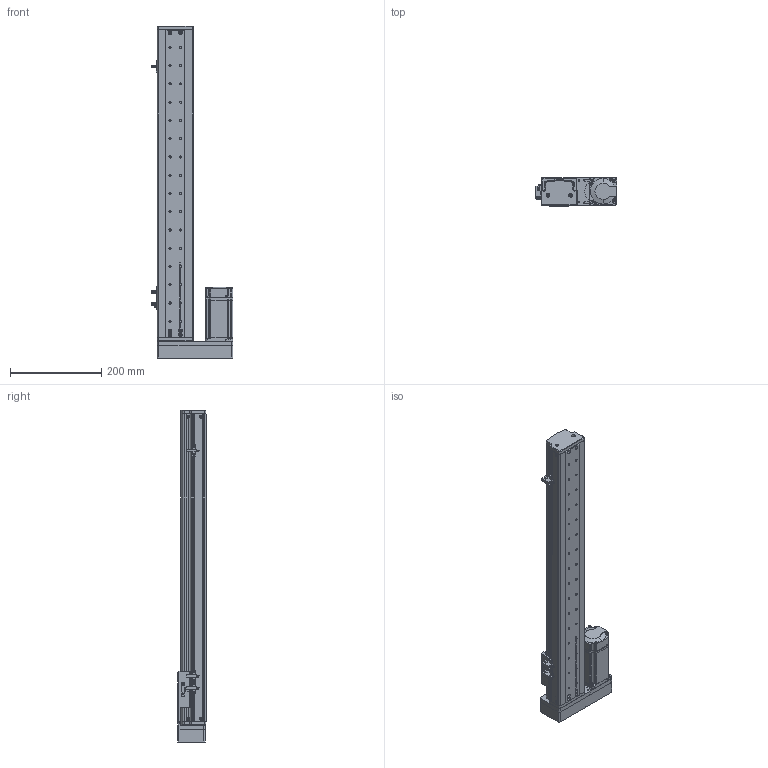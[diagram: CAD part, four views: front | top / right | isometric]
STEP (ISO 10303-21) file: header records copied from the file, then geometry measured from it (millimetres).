
FILE_DESCRIPTION (( 'STEP AP214' ), '1' );
FILE_NAME ('KSD75S-S520-ML-CM.STEP', '2019-10-18T06:59:24', ( '微软用户' ), ( '微软中国' ), 'SwSTEP 2.0', 'SolidWorks 2014', '' );
FILE_SCHEMA (( 'AUTOMOTIVE_DESIGN' ));
Length unit declared in the file: millimetre
Products named in the file (13): 520俴最; KSD75S-S520-ML-CM; MHMD042G1CA_2_03; 75宽模组保护罩左右折; 75宽马达安装板连板左右折丝杆; 覜茼え100遵圉猾敕; U倰嫖萇EEㄜSX672; 綴傷啣 ; ヶ傷啣; 75裔啣-520俴最; 75遵耀郪耜啣-520俴最; 75遵賑雄釱; MGW15H賑寢520俴最 
Assembly tree (15 placements, depth 3):
  KSD75S-S520-ML-CM
    MGW15H賑寢520俴最 
      520俴最
    75遵賑雄釱
    75遵耀郪耜啣-520俴最  x2
    75裔啣-520俴最
    ヶ傷啣
    綴傷啣 
    U倰嫖萇EEㄜSX672  x3
    覜茼え100遵圉猾敕
    75宽马达安装板连板左右折丝杆
    75宽模组保护罩左右折
    MHMD042G1CA_2_03
Bounding box: 178.7 x 63 x 727.5 mm (x, y, z)
Volume: 947063.2 mm3; surface area: 596305.9 mm2
Topology: 13 solids, 14 shells, 1493 faces, 4210 edges, 2749 vertices
Faces by surface type: cylinder 715, plane 631, cone 129, bspline 18
Entity records: 47842 total; most frequent: CARTESIAN_POINT 9068, DIRECTION 7184, ORIENTED_EDGE 6700, EDGE_CURVE 3421, AXIS2_PLACEMENT_3D 2644, VERTEX_POINT 2267, VECTOR 1896, LINE 1896
